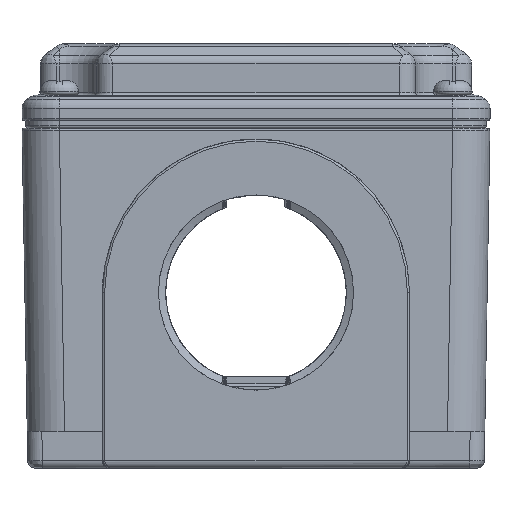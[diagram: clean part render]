
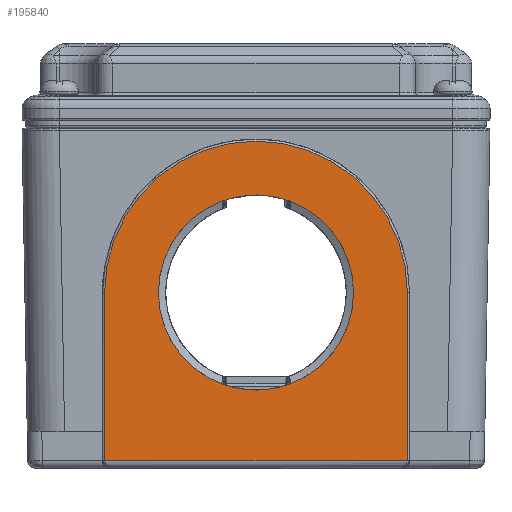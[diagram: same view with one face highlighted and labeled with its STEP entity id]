
A CAD part, front view. The second image highlights one B-rep face of the part: STEP entity #195840.
In plain terms, the highlighted planar face has unit normal (0, -1, 0) as drawn and (0, 0, 1) by its records, which use the part's own axes.
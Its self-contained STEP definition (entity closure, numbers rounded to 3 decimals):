
#74990=CARTESIAN_POINT('',(47.8,1.,
97.5));
#75000=VERTEX_POINT('',#74990);
#127990=CARTESIAN_POINT('',(6.4,24.,
97.5));
#128000=VERTEX_POINT('',#127990);
#128190=CARTESIAN_POINT('',(47.8,24.,
97.5));
#128200=VERTEX_POINT('',#128190);
#128230=CARTESIAN_POINT('',(27.1,24.,
97.5));
#128240=DIRECTION('',(0.,0.,1.));
#128250=DIRECTION('',(1.,0.,0.));
#128260=AXIS2_PLACEMENT_3D('',#128230,#128240,#128250);
#128270=CIRCLE('',#128260,20.7);
#128280=EDGE_CURVE('',#128200,#128000,#128270,.T.);
#160050=CARTESIAN_POINT('',(6.4,1.,
97.5));
#160060=VERTEX_POINT('',#160050);
#183400=CARTESIAN_POINT('',(6.4,0.,97.5));
#183410=DIRECTION('',(0.,-1.,0.));
#183420=VECTOR('',#183410,1.);
#183430=LINE('',#183400,#183420);
#183440=EDGE_CURVE('',#128000,#160060,#183430,.T.);
#184210=CARTESIAN_POINT('',(43.861,1.,
97.5));
#184220=DIRECTION('',(1.,0.,0.));
#184230=VECTOR('',#184220,1.);
#184240=LINE('',#184210,#184230);
#184250=EDGE_CURVE('',#160060,#75000,#184240,.T.);
#185160=CARTESIAN_POINT('',(47.8,0.,97.5));
#185170=DIRECTION('',(0.,-1.,0.));
#185180=VECTOR('',#185170,1.);
#185190=LINE('',#185160,#185180);
#185200=EDGE_CURVE('',#128200,#75000,#185190,.T.);
#195580=CARTESIAN_POINT('',(15.516,2.591,
97.5));
#195590=DIRECTION('',(0.,0.,1.));
#195600=DIRECTION('',(1.,0.,0.));
#195610=AXIS2_PLACEMENT_3D('',#195580,#195590,#195600);
#195620=PLANE('',#195610);
#195630=CARTESIAN_POINT('',(27.1,24.,
97.5));
#195640=DIRECTION('',(0.,0.,1.));
#195650=DIRECTION('',(1.,0.,0.));
#195660=AXIS2_PLACEMENT_3D('',#195630,#195640,#195650);
#195670=CIRCLE('',#195660,13.35);
#195680=CARTESIAN_POINT('',(40.45,24.,
97.5));
#195690=VERTEX_POINT('',#195680);
#195700=CARTESIAN_POINT('',(13.75,24.,
97.5));
#195710=VERTEX_POINT('',#195700);
#195720=EDGE_CURVE('',#195690,#195710,#195670,.T.);
#195730=ORIENTED_EDGE('',*,*,#195720,.F.);
#195740=EDGE_CURVE('',#195710,#195690,#195670,.T.);
#195750=ORIENTED_EDGE('',*,*,#195740,.F.);
#195760=EDGE_LOOP('',(#195750,#195730));
#195770=FACE_BOUND('',#195760,.T.);
#195780=ORIENTED_EDGE('',*,*,#128280,.T.);
#195790=ORIENTED_EDGE('',*,*,#185200,.F.);
#195800=ORIENTED_EDGE('',*,*,#184250,.T.);
#195810=ORIENTED_EDGE('',*,*,#183440,.T.);
#195820=EDGE_LOOP('',(#195810,#195800,#195790,#195780));
#195830=FACE_OUTER_BOUND('',#195820,.T.);
#195840=ADVANCED_FACE('',(#195770,#195830),#195620,.T.);
